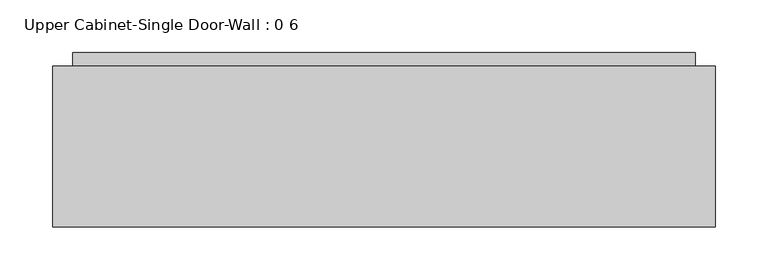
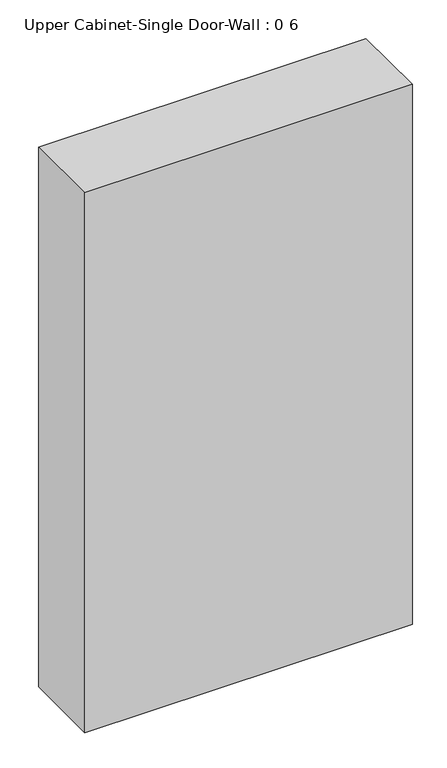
"""IFC4 building model written with IfcOpenShell, lengths in millimetres: furniture geometry, Upper Cabinet-Single Door-Wall : 0 6."""

from ifc_helpers import new_model, si_unit, frame, origin, place, context, project, spatial, polyline, outline, extrude, faceted_brep, source, transform, mapped, element, save


def upper_cabinet_single_door_wall_0_6_8ed0c04b(model_context):
    return source(origin(), model_context, "Body", "SolidModel", [
        faceted_brep([(-368.5123929, 82.55, 2133.6), (-368.5123929, 82.55, 1041.4), (258.3711628, 82.55, 1041.4), (258.3711628, 82.55, 2133.6), (-368.5123929, 234.95, 2133.6), (258.3711628, 234.95, 2133.6), (258.3711628, 234.95, 1041.4), (-368.5123929, 234.95, 1041.4), (-349.4623929, 234.95, 2114.55), (-349.4623929, 234.95, 1060.45), (239.3211628, 234.95, 1060.45), (239.3211628, 234.95, 2114.55), (239.3211628, 101.6, 2114.55), (-349.4623929, 101.6, 2114.55), (239.3211628, 101.6, 1060.45), (-349.4623929, 101.6, 1060.45)], [[[0, 1, 2, 3]], [[4, 5, 6, 7], [8, 9, 10, 11]], [[1, 0, 4, 7]], [[2, 1, 7, 6]], [[3, 2, 6, 5]], [[0, 3, 5, 4]], [[8, 11, 12, 13]], [[11, 10, 14, 12]], [[10, 9, 15, 14]], [[9, 8, 13, 15]], [[13, 12, 14, 15]]]),
        extrude(outline(polyline([(-349.4623929, 247.65), (239.3211628, 247.65), (239.3211628, 215.9), (-349.4623929, 215.9), (-349.4623929, 247.65)])), frame((0.0, 0.0, 1060.45), z_axis=(0.0, 0.0, 1.0), x_axis=(1.0, 0.0, 0.0)), (0.0, 0.0, 1.0), 1054.1),
    ])


if __name__ == "__main__":
    model = new_model("IFC4")
    model_context = context("Model", 3, world=origin())
    ifc_project = project(units=[si_unit("LENGTHUNIT", "METRE", prefix="MILLI")], contexts=[model_context])
    site = spatial("IfcSite", under=ifc_project)
    building = spatial("IfcBuilding", under=site)
    placement = place(None, origin())
    upper_cabinet_single_door_wall_0_6_shape = upper_cabinet_single_door_wall_0_6_8ed0c04b(model_context)
    element("IfcFurniture", 1, ObjectType="Upper Cabinet-Single Door-Wall : 0 6", at=placement, inside=building, context=model_context, shape_type="MappedRepresentation", body=[
        mapped(upper_cabinet_single_door_wall_0_6_shape, transform((0.0, 0.0, 0.0), x_axis=(1.0, 0.0, 0.0), y_axis=(0.0, 1.0, 0.0), z_axis=(0.0, 0.0, 1.0))),
    ])
    save(model, "model.ifc")
